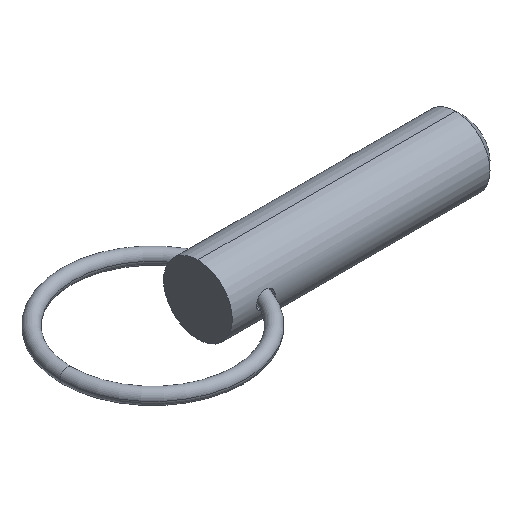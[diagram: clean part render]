
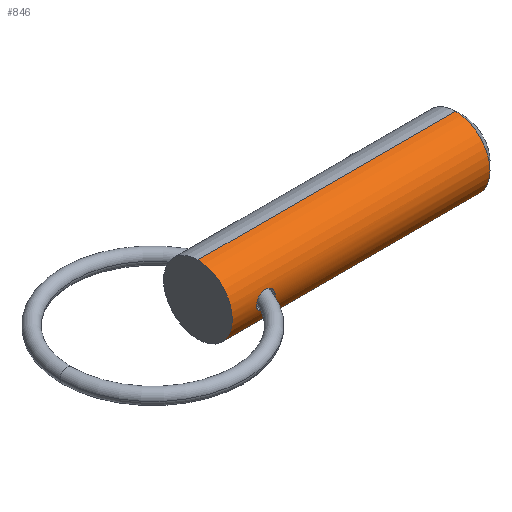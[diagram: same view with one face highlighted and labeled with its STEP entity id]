
A CAD part, isometric view. The second image highlights one B-rep face of the part: STEP entity #846.
In plain terms, the highlighted cylindrical face has radius 6.35 mm (diameter 12.7 mm), a partial arc.
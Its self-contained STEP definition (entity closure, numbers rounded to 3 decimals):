
#21 = CARTESIAN_POINT ( 'NONE',  ( 7.92, -6.35, -0.109 ) ) ;
#44 = VERTEX_POINT ( 'NONE', #660 ) ;
#51 = CARTESIAN_POINT ( 'NONE',  ( 4.856, -6.274, 0.989 ) ) ;
#52 = CARTESIAN_POINT ( 'NONE',  ( 5.784, -6.165, -1.523 ) ) ;
#54 = CARTESIAN_POINT ( 'NONE',  ( 6.111, -6.15, 1.582 ) ) ;
#58 = CARTESIAN_POINT ( 'NONE',  ( 4.52, -6.336, -0.428 ) ) ;
#91 = VERTEX_POINT ( 'NONE', #865 ) ;
#96 = AXIS2_PLACEMENT_3D ( 'NONE', #106, #451, #649 ) ;
#106 = CARTESIAN_POINT ( 'NONE',  ( 47.613, 0., 0. ) ) ;
#109 = CARTESIAN_POINT ( 'NONE',  ( 7.875, -6.338, 0.437 ) ) ;
#110 = DIRECTION ( 'NONE',  ( 0., 0., -1. ) ) ;
#117 = CARTESIAN_POINT ( 'NONE',  ( 4.56, -6.329, -0.53 ) ) ;
#118 = AXIS2_PLACEMENT_3D ( 'NONE', #493, #200, #480 ) ;
#119 = B_SPLINE_CURVE_WITH_KNOTS ( 'NONE', 3,
 ( #302, #21, #296, #578, #515, #810, #676, #604, #469, #538, #741, #251, #817, #129, #671, #680, #612, #52, #595, #749, #326, #874, #608, #128, #886, #737, #467, #117, #58, #667, #878, #194 ),
 .UNSPECIFIED., .F., .F.,
 ( 4, 2, 2, 2, 2, 2, 2, 2, 2, 2, 2, 2, 2, 2, 2, 4 ),
 ( 0.006, 0.007, 0.007, 0.007, 0.008, 0.008, 0.008, 0.009, 0.009, 0.01, 0.01, 0.01, 0.011, 0.011, 0.011, 0.012 ),
 .UNSPECIFIED. ) ;
#120 = CARTESIAN_POINT ( 'NONE',  ( 5.685, -6.172, 1.494 ) ) ;
#122 = CARTESIAN_POINT ( 'NONE',  ( 4.51, -6.338, 0.435 ) ) ;
#126 = CARTESIAN_POINT ( 'NONE',  ( 4.452, -6.35, 0.219 ) ) ;
#127 = ORIENTED_EDGE ( 'NONE', *, *, #369, .T. ) ;
#128 = CARTESIAN_POINT ( 'NONE',  ( 4.938, -6.262, -1.058 ) ) ;
#129 = CARTESIAN_POINT ( 'NONE',  ( 6.655, -6.155, -1.565 ) ) ;
#155 = EDGE_CURVE ( 'NONE', #44, #216, #246, .T. ) ;
#167 = CARTESIAN_POINT ( 'NONE',  ( 0., 0., 6.35 ) ) ;
#168 = EDGE_CURVE ( 'NONE', #216, #720, #334, .T. ) ;
#178 = CARTESIAN_POINT ( 'NONE',  ( 47.613, 0., 6.35 ) ) ;
#186 = CARTESIAN_POINT ( 'NONE',  ( 7.704, -6.298, 0.835 ) ) ;
#190 = VERTEX_POINT ( 'NONE', #796 ) ;
#194 = CARTESIAN_POINT ( 'NONE',  ( 4.452, -6.35, 0. ) ) ;
#200 = DIRECTION ( 'NONE',  ( 1., 0., 0. ) ) ;
#205 = ORIENTED_EDGE ( 'NONE', *, *, #806, .T. ) ;
#210 = FACE_OUTER_BOUND ( 'NONE', #298, .T. ) ;
#216 = VERTEX_POINT ( 'NONE', #178 ) ;
#235 = EDGE_CURVE ( 'NONE', #44, #91, #311, .T. ) ;
#240 = CARTESIAN_POINT ( 'NONE',  ( 47.613, 0., -6.35 ) ) ;
#246 = LINE ( 'NONE', #167, #537 ) ;
#251 = CARTESIAN_POINT ( 'NONE',  ( 7.063, -6.191, -1.413 ) ) ;
#258 = CARTESIAN_POINT ( 'NONE',  ( 4.452, -6.35, 0. ) ) ;
#269 = ORIENTED_EDGE ( 'NONE', *, *, #767, .T. ) ;
#296 = CARTESIAN_POINT ( 'NONE',  ( 7.909, -6.347, -0.22 ) ) ;
#298 = EDGE_LOOP ( 'NONE', ( #596, #733, #205, #825 ) ) ;
#302 = CARTESIAN_POINT ( 'NONE',  ( 7.92, -6.35, 0. ) ) ;
#311 = CIRCLE ( 'NONE', #744, 6.35 ) ;
#324 = CARTESIAN_POINT ( 'NONE',  ( 5.789, -6.164, 1.525 ) ) ;
#326 = CARTESIAN_POINT ( 'NONE',  ( 5.378, -6.201, -1.366 ) ) ;
#328 = CARTESIAN_POINT ( 'NONE',  ( 6.759, -6.163, 1.529 ) ) ;
#334 = CIRCLE ( 'NONE', #96, 6.35 ) ;
#369 = EDGE_CURVE ( 'NONE', #824, #190, #119, .T. ) ;
#388 = CARTESIAN_POINT ( 'NONE',  ( 7.92, -6.35, 0.218 ) ) ;
#392 = CARTESIAN_POINT ( 'NONE',  ( 7.338, -6.229, 1.237 ) ) ;
#396 = CARTESIAN_POINT ( 'NONE',  ( 7.063, -6.191, 1.413 ) ) ;
#439 = B_SPLINE_CURVE_WITH_KNOTS ( 'NONE', 3,
 ( #258, #126, #122, #611, #51, #675, #803, #120, #324, #457, #54, #739, #734, #868, #328, #885, #396, #606, #392, #533, #186, #109, #388, #666 ),
 .UNSPECIFIED., .F., .F.,
 ( 4, 2, 2, 2, 2, 2, 2, 2, 2, 2, 2, 4 ),
 ( 0.001, 0.002, 0.002, 0.003, 0.003, 0.004, 0.004, 0.004, 0.005, 0.005, 0.006, 0.006 ),
 .UNSPECIFIED. ) ;
#451 = DIRECTION ( 'NONE',  ( 1., 0., 0. ) ) ;
#457 = CARTESIAN_POINT ( 'NONE',  ( 6.002, -6.153, 1.569 ) ) ;
#463 = CARTESIAN_POINT ( 'NONE',  ( 7.92, -6.35, 0. ) ) ;
#467 = CARTESIAN_POINT ( 'NONE',  ( 4.662, -6.309, -0.723 ) ) ;
#469 = CARTESIAN_POINT ( 'NONE',  ( 7.496, -6.256, -1.091 ) ) ;
#480 = DIRECTION ( 'NONE',  ( 0., 0., -1. ) ) ;
#493 = CARTESIAN_POINT ( 'NONE',  ( 0., 0., 0. ) ) ;
#511 = DIRECTION ( 'NONE',  ( 1., 0., 0. ) ) ;
#515 = CARTESIAN_POINT ( 'NONE',  ( 7.833, -6.328, -0.536 ) ) ;
#533 = CARTESIAN_POINT ( 'NONE',  ( 7.576, -6.27, 1.017 ) ) ;
#537 = VECTOR ( 'NONE', #718, 1000. ) ;
#538 = CARTESIAN_POINT ( 'NONE',  ( 7.336, -6.229, -1.238 ) ) ;
#566 = VECTOR ( 'NONE', #877, 1000. ) ;
#578 = CARTESIAN_POINT ( 'NONE',  ( 7.865, -6.336, -0.432 ) ) ;
#595 = CARTESIAN_POINT ( 'NONE',  ( 5.68, -6.172, -1.492 ) ) ;
#596 = ORIENTED_EDGE ( 'NONE', *, *, #155, .F. ) ;
#604 = CARTESIAN_POINT ( 'NONE',  ( 7.568, -6.27, -1.008 ) ) ;
#606 = CARTESIAN_POINT ( 'NONE',  ( 7.249, -6.215, 1.303 ) ) ;
#608 = CARTESIAN_POINT ( 'NONE',  ( 5.104, -6.237, -1.196 ) ) ;
#611 = CARTESIAN_POINT ( 'NONE',  ( 4.713, -6.3, 0.82 ) ) ;
#612 = CARTESIAN_POINT ( 'NONE',  ( 5.998, -6.153, -1.568 ) ) ;
#649 = DIRECTION ( 'NONE',  ( 0., 0., -1. ) ) ;
#659 = LINE ( 'NONE', #662, #566 ) ;
#660 = CARTESIAN_POINT ( 'NONE',  ( 0., 0., 6.35 ) ) ;
#662 = CARTESIAN_POINT ( 'NONE',  ( 0., 0., -6.35 ) ) ;
#666 = CARTESIAN_POINT ( 'NONE',  ( 7.92, -6.35, 0. ) ) ;
#667 = CARTESIAN_POINT ( 'NONE',  ( 4.466, -6.347, -0.219 ) ) ;
#671 = CARTESIAN_POINT ( 'NONE',  ( 6.434, -6.147, -1.595 ) ) ;
#675 = CARTESIAN_POINT ( 'NONE',  ( 5.191, -6.224, 1.268 ) ) ;
#676 = CARTESIAN_POINT ( 'NONE',  ( 7.693, -6.296, -0.832 ) ) ;
#680 = CARTESIAN_POINT ( 'NONE',  ( 6.107, -6.15, -1.582 ) ) ;
#693 = EDGE_LOOP ( 'NONE', ( #269, #127 ) ) ;
#698 = CYLINDRICAL_SURFACE ( 'NONE', #118, 6.35 ) ;
#718 = DIRECTION ( 'NONE',  ( 1., 0., 0. ) ) ;
#720 = VERTEX_POINT ( 'NONE', #240 ) ;
#725 = CARTESIAN_POINT ( 'NONE',  ( 0., 0., 0. ) ) ;
#733 = ORIENTED_EDGE ( 'NONE', *, *, #235, .T. ) ;
#734 = CARTESIAN_POINT ( 'NONE',  ( 6.437, -6.149, 1.585 ) ) ;
#737 = CARTESIAN_POINT ( 'NONE',  ( 4.722, -6.298, -0.813 ) ) ;
#739 = CARTESIAN_POINT ( 'NONE',  ( 6.329, -6.148, 1.59 ) ) ;
#741 = CARTESIAN_POINT ( 'NONE',  ( 7.25, -6.215, -1.302 ) ) ;
#744 = AXIS2_PLACEMENT_3D ( 'NONE', #725, #511, #110 ) ;
#749 = CARTESIAN_POINT ( 'NONE',  ( 5.477, -6.191, -1.414 ) ) ;
#751 = FACE_BOUND ( 'NONE', #693, .T. ) ;
#767 = EDGE_CURVE ( 'NONE', #190, #824, #439, .T. ) ;
#796 = CARTESIAN_POINT ( 'NONE',  ( 4.452, -6.35, 0. ) ) ;
#803 = CARTESIAN_POINT ( 'NONE',  ( 5.381, -6.199, 1.378 ) ) ;
#806 = EDGE_CURVE ( 'NONE', #91, #720, #659, .T. ) ;
#810 = CARTESIAN_POINT ( 'NONE',  ( 7.746, -6.308, -0.737 ) ) ;
#817 = CARTESIAN_POINT ( 'NONE',  ( 6.963, -6.18, -1.459 ) ) ;
#824 = VERTEX_POINT ( 'NONE', #463 ) ;
#825 = ORIENTED_EDGE ( 'NONE', *, *, #168, .F. ) ;
#846 = ADVANCED_FACE ( 'NONE', ( #210, #751 ), #698, .T. ) ;
#865 = CARTESIAN_POINT ( 'NONE',  ( 0., 0., -6.35 ) ) ;
#868 = CARTESIAN_POINT ( 'NONE',  ( 6.652, -6.157, 1.554 ) ) ;
#874 = CARTESIAN_POINT ( 'NONE',  ( 5.192, -6.225, -1.257 ) ) ;
#877 = DIRECTION ( 'NONE',  ( 1., 0., 0. ) ) ;
#878 = CARTESIAN_POINT ( 'NONE',  ( 4.452, -6.35, -0.109 ) ) ;
#885 = CARTESIAN_POINT ( 'NONE',  ( 6.965, -6.181, 1.458 ) ) ;
#886 = CARTESIAN_POINT ( 'NONE',  ( 4.86, -6.274, -0.98 ) ) ;
